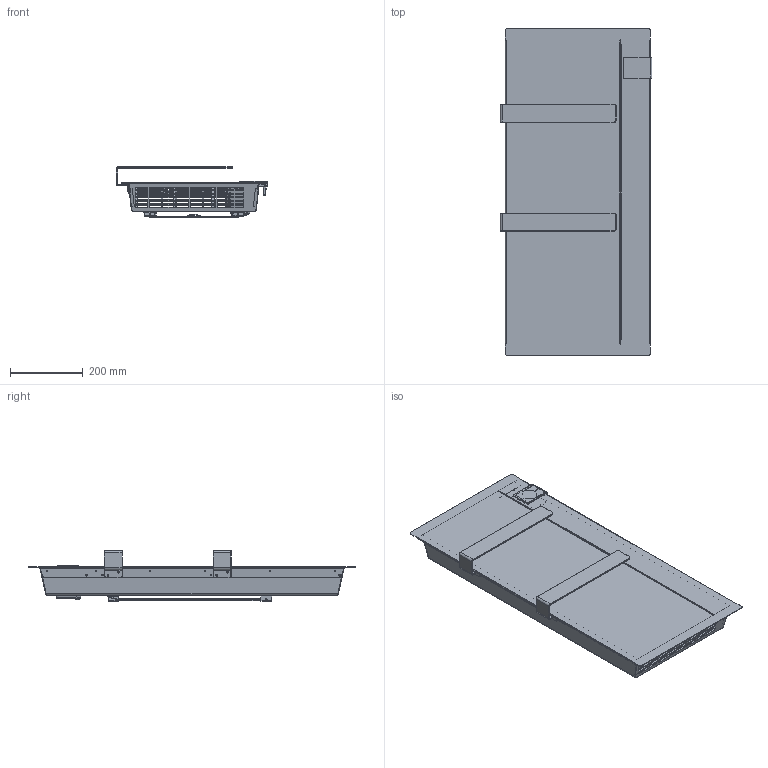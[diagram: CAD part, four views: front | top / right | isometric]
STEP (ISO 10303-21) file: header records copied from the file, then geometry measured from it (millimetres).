
FILE_DESCRIPTION(('FreeCAD Model'),'2;1');
FILE_NAME('Open CASCADE Shape Model','2026-06-11T07:18:07',(''),(''), 'Open CASCADE STEP processor 7.8','FreeCAD','Unknown');
FILE_SCHEMA(('AUTOMOTIVE_DESIGN { 1 0 10303 214 1 1 1 1 }'));
Length unit declared in the file: millimetre
Products named in the file (14): Unnamed; ONS_GR-POSTERIORE_ASM; ONS_POSTERIORE; DEK_AGGANCIO-SUPPORTO; ONS_GR-COMANDI_ASM; ONS_FONDO-SCATOLA-COMANDI; ONS_COPERCHIO-SCATOLA-COMANDI; ONS_MASCHERINA-COMANDI; ONS_FRONTALE; ICO_GR-SUPPORTO-MURALE_750-1000_ASM; ICO_SUPPORTO-MURALE-SUP; GLA_TRAVERSA-SUPPORTO; ICO_SUPPORTO-MURALE-INF; ONS_BARRA-PORTASALVIETTE
Assembly tree (15 placements, depth 3):
  Unnamed
    ONS_GR-POSTERIORE_ASM
      ONS_POSTERIORE
      DEK_AGGANCIO-SUPPORTO  x2
    ONS_GR-COMANDI_ASM
      ONS_FONDO-SCATOLA-COMANDI
      ONS_COPERCHIO-SCATOLA-COMANDI
    ONS_MASCHERINA-COMANDI
    ONS_FRONTALE
    ICO_GR-SUPPORTO-MURALE_750-1000_ASM
      ICO_SUPPORTO-MURALE-SUP
      GLA_TRAVERSA-SUPPORTO
      ICO_SUPPORTO-MURALE-INF
    ONS_BARRA-PORTASALVIETTE  x2
Bounding box: 418.4 x 900 x 139.7 mm (x, y, z)
Volume: 1274559.1 mm3; surface area: 2012018.8 mm2
Topology: 12 solids, 12 shells, 2768 faces, 7443 edges, 4711 vertices
Faces by surface type: plane 1587, cylinder 777, bspline 228, cone 109, torus 55, sphere 12
Entity records: 98899 total; most frequent: CARTESIAN_POINT 32631, ORIENTED_EDGE 14434, DIRECTION 12492, EDGE_CURVE 7217, LINE 4958, VECTOR 4958, VERTEX_POINT 4583, AXIS2_PLACEMENT_3D 3767
